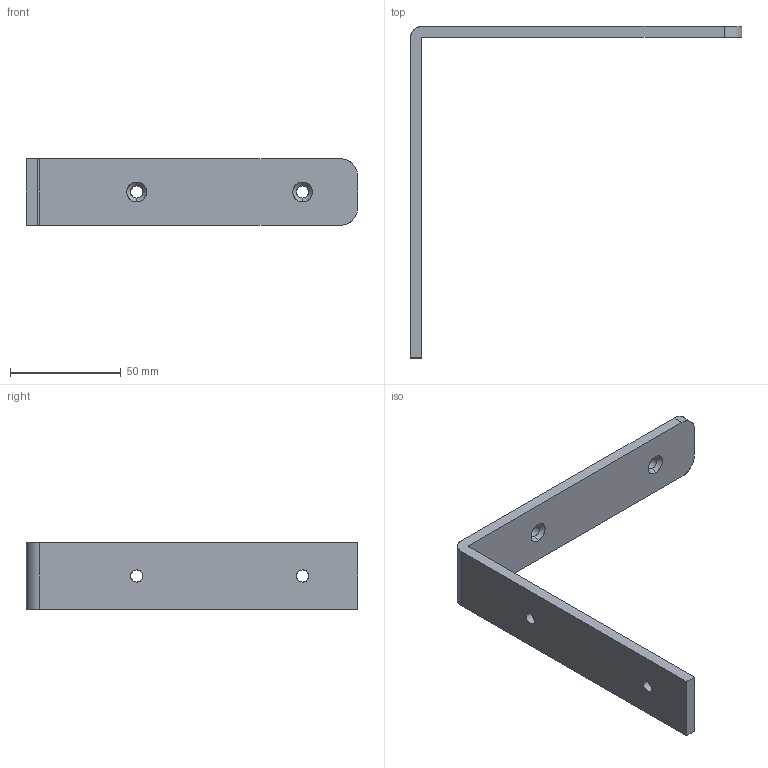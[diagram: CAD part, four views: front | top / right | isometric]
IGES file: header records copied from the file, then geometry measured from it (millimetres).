
Start section: SolidWorks IGES file using analytic representation for surfaces
Bounding box: 150 x 150 x 30 mm (x, y, z)
Surface area: 20856.2 mm2 (no closed solid volume)
Topology: 0 solids, 0 shells, 28 faces, 444 edges, 444 vertices
Faces by surface type: revolution 20, bspline 8
